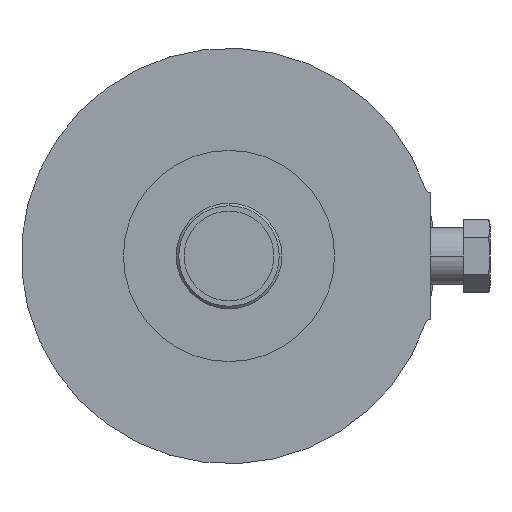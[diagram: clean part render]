
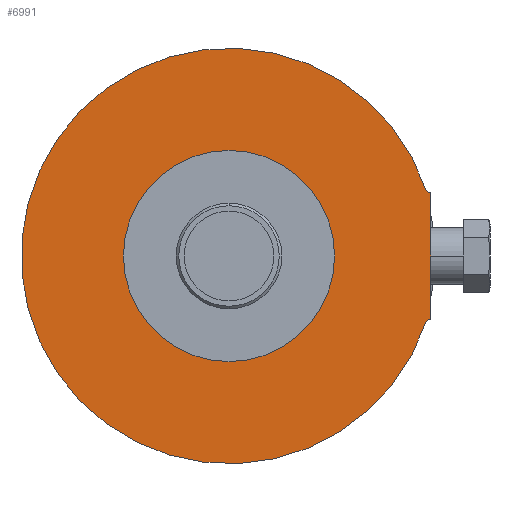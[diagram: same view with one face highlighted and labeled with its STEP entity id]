
A CAD part, front view. The second image highlights one B-rep face of the part: STEP entity #6991.
In plain terms, the highlighted planar face has unit normal (0, -1, 0).
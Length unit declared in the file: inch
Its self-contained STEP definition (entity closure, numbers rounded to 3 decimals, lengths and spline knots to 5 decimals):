
#4700=DIRECTION('',(1.,0.,0.));
#4701=VECTOR('',#4700,0.00373);
#4702=CARTESIAN_POINT('',(2.38627,-4.9,-0.75));
#4703=LINE('',#4702,#4701);
#4717=DIRECTION('',(1.,0.,0.));
#4718=VECTOR('',#4717,0.00373);
#4719=CARTESIAN_POINT('',(2.38627,-4.9,0.75));
#4720=LINE('',#4719,#4718);
#5543=DIRECTION('',(0.,0.,-1.));
#5544=VECTOR('',#5543,1.5);
#5545=CARTESIAN_POINT('',(2.39,-4.9,0.75));
#5546=LINE('',#5545,#5544);
#5547=CARTESIAN_POINT('',(2.38627,-4.9,-0.81));
#5548=DIRECTION('',(0.,-1.,0.));
#5549=DIRECTION('',(0.,0.,1.));
#5550=AXIS2_PLACEMENT_3D('',#5547,#5548,#5549);
#5552=CARTESIAN_POINT('',(0.,-4.9,0.));
#5553=DIRECTION('',(0.,1.,0.));
#5554=DIRECTION('',(0.947,0.,-0.321));
#5555=AXIS2_PLACEMENT_3D('',#5552,#5553,#5554);
#5557=CARTESIAN_POINT('',(2.38627,-4.9,0.81));
#5558=DIRECTION('',(0.,-1.,0.));
#5559=DIRECTION('',(-0.947,0.,-0.321));
#5560=AXIS2_PLACEMENT_3D('',#5557,#5558,#5559);
#5806=CARTESIAN_POINT('',(2.32946,-4.9,-0.79071));
#5807=CARTESIAN_POINT('',(2.32946,-4.9,0.79071));
#5808=VERTEX_POINT('',#5806);
#5809=VERTEX_POINT('',#5807);
#5810=CARTESIAN_POINT('',(2.38627,-4.9,0.75));
#5811=VERTEX_POINT('',#5810);
#5812=CARTESIAN_POINT('',(2.38627,-4.9,-0.75));
#5813=VERTEX_POINT('',#5812);
#5814=CARTESIAN_POINT('',(2.39,-4.9,-0.75));
#5816=VERTEX_POINT('',#5814);
#5820=CARTESIAN_POINT('',(2.39,-4.9,0.75));
#5821=VERTEX_POINT('',#5820);
#6975=CARTESIAN_POINT('',(0.,-4.9,0.));
#6976=DIRECTION('',(0.,-1.,0.));
#6977=DIRECTION('',(-1.,0.,0.));
#6978=AXIS2_PLACEMENT_3D('',#6975,#6976,#6977);
#6979=PLANE('',#6978);
#6981=ORIENTED_EDGE('',*,*,#6980,.T.);
#6982=ORIENTED_EDGE('',*,*,#6023,.F.);
#6984=ORIENTED_EDGE('',*,*,#6983,.T.);
#6985=ORIENTED_EDGE('',*,*,#5982,.T.);
#6987=ORIENTED_EDGE('',*,*,#6986,.T.);
#6988=ORIENTED_EDGE('',*,*,#6050,.T.);
#6989=EDGE_LOOP('',(#6981,#6982,#6984,#6985,#6987,#6988));
#6990=FACE_OUTER_BOUND('',#6989,.F.);
#6991=ADVANCED_FACE('',(#6990),#6979,.T.);
#5551=CIRCLE('',#5550,0.06);
#5556=CIRCLE('',#5555,2.46);
#5561=CIRCLE('',#5560,0.06);
#5982=EDGE_CURVE('',#5808,#5809,#5556,.T.);
#6023=EDGE_CURVE('',#5813,#5816,#4703,.T.);
#6050=EDGE_CURVE('',#5811,#5821,#4720,.T.);
#6980=EDGE_CURVE('',#5821,#5816,#5546,.T.);
#6983=EDGE_CURVE('',#5813,#5808,#5551,.T.);
#6986=EDGE_CURVE('',#5809,#5811,#5561,.T.);
